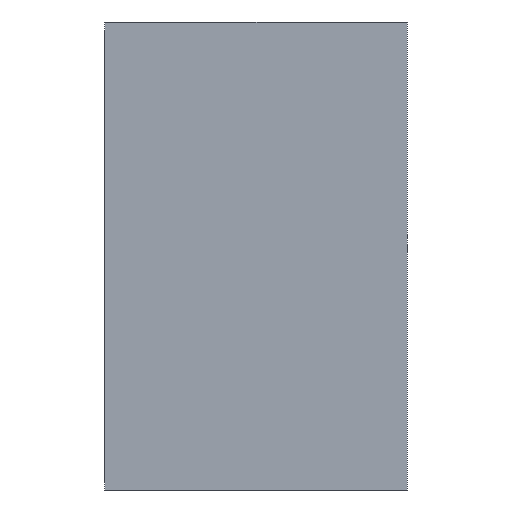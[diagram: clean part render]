
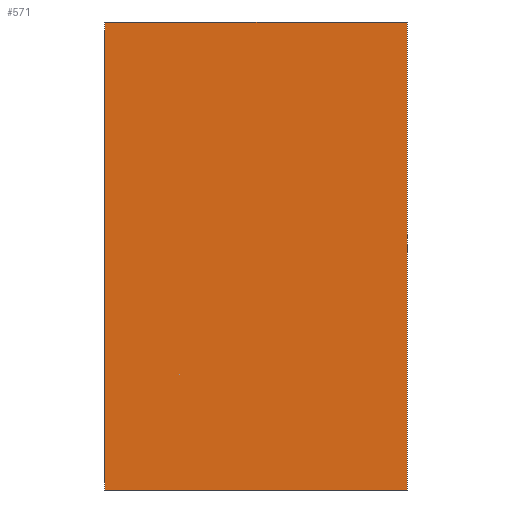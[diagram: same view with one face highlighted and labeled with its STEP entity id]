
A CAD part, left-side view. The second image highlights one B-rep face of the part: STEP entity #571.
In plain terms, the highlighted planar face has unit normal (-1, 0, 0).
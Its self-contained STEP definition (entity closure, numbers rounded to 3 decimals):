
#31=FACE_OUTER_BOUND('',#63,.T.);
#63=EDGE_LOOP('',(#405,#406,#407,#408));
#100=LINE('',#809,#172);
#106=LINE('',#820,#178);
#115=LINE('',#837,#187);
#116=LINE('',#839,#188);
#172=VECTOR('',#665,0.79);
#178=VECTOR('',#675,0.51);
#187=VECTOR('',#690,0.79);
#188=VECTOR('',#693,0.51);
#239=VERTEX_POINT('',#807);
#240=VERTEX_POINT('',#808);
#243=VERTEX_POINT('',#819);
#248=VERTEX_POINT('',#835);
#292=EDGE_CURVE('',#239,#240,#100,.T.);
#298=EDGE_CURVE('',#243,#239,#106,.T.);
#307=EDGE_CURVE('',#243,#248,#115,.T.);
#308=EDGE_CURVE('',#240,#248,#116,.T.);
#405=ORIENTED_EDGE('',*,*,#307,.T.);
#406=ORIENTED_EDGE('',*,*,#308,.F.);
#407=ORIENTED_EDGE('',*,*,#292,.F.);
#408=ORIENTED_EDGE('',*,*,#298,.F.);
#503=PLANE('',#608);
#571=ADVANCED_FACE('',(#31),#503,.T.);
#608=AXIS2_PLACEMENT_3D('',#838,#691,#692);
#665=DIRECTION('',(0.,0.,1.));
#675=DIRECTION('',(0.,1.,0.));
#690=DIRECTION('',(0.,0.,1.));
#691=DIRECTION('center_axis',(-1.,0.,0.));
#692=DIRECTION('ref_axis',(0.,-1.,0.));
#693=DIRECTION('',(0.,-1.,0.));
#807=CARTESIAN_POINT('',(-0.014,0.496,-0.014));
#808=CARTESIAN_POINT('',(-0.014,0.496,0.776));
#809=CARTESIAN_POINT('',(-0.014,0.496,0.762));
#819=CARTESIAN_POINT('',(-0.014,-0.014,-0.014));
#820=CARTESIAN_POINT('',(-0.014,0.,-0.014));
#835=CARTESIAN_POINT('',(-0.014,-0.014,0.776));
#837=CARTESIAN_POINT('',(-0.014,-0.014,0.762));
#838=CARTESIAN_POINT('Origin',(-0.014,0.,0.762));
#839=CARTESIAN_POINT('',(-0.014,0.496,0.776));
